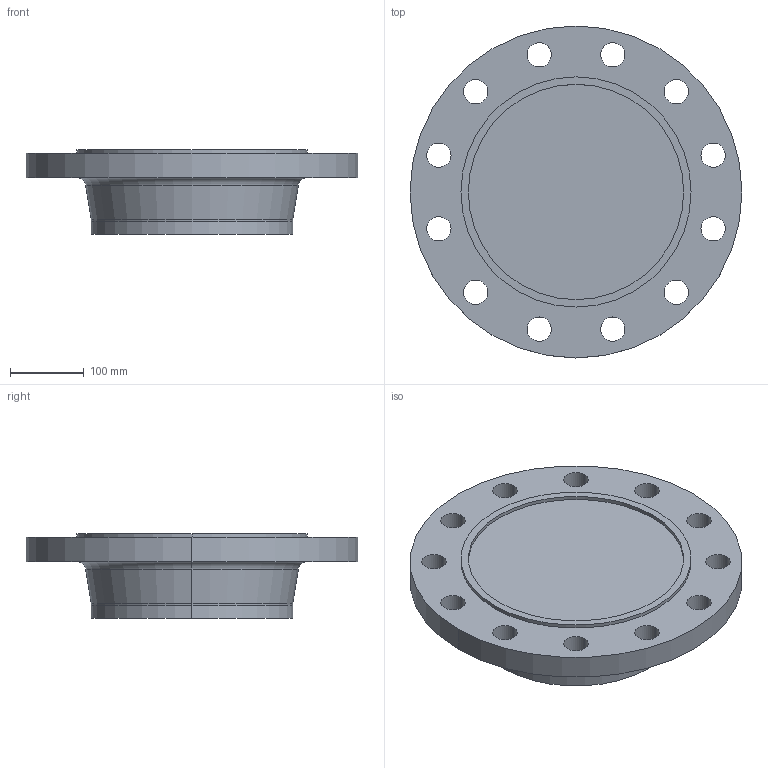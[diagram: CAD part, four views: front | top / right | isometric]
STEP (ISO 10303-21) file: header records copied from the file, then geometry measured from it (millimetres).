
FILE_DESCRIPTION (( 'STEP AP214' ), '1' );
FILE_NAME ('PN40 DN250 Type 21(ii) - Type C Face.STEP', '2019-01-05T15:50:37', ( '' ), ( '' ), 'SwSTEP 2.0', 'SolidWorks 2019', '' );
FILE_SCHEMA (( 'AUTOMOTIVE_DESIGN' ));
Length unit declared in the file: millimetre
Products named in the file (1): PN40 DN250 Type 21(ii) - Type C Face
Bounding box: 450 x 450 x 115 mm (x, y, z)
Volume: 9719784.4 mm3; surface area: 451740.3 mm2
Topology: 1 solids, 1 shells, 43 faces, 108 edges, 70 vertices
Faces by surface type: cylinder 32, plane 5, torus 4, cone 2
Entity records: 1410 total; most frequent: DIRECTION 270, CARTESIAN_POINT 222, ORIENTED_EDGE 216, AXIS2_PLACEMENT_3D 118, EDGE_CURVE 108, CIRCLE 74, VERTEX_POINT 70, EDGE_LOOP 70
